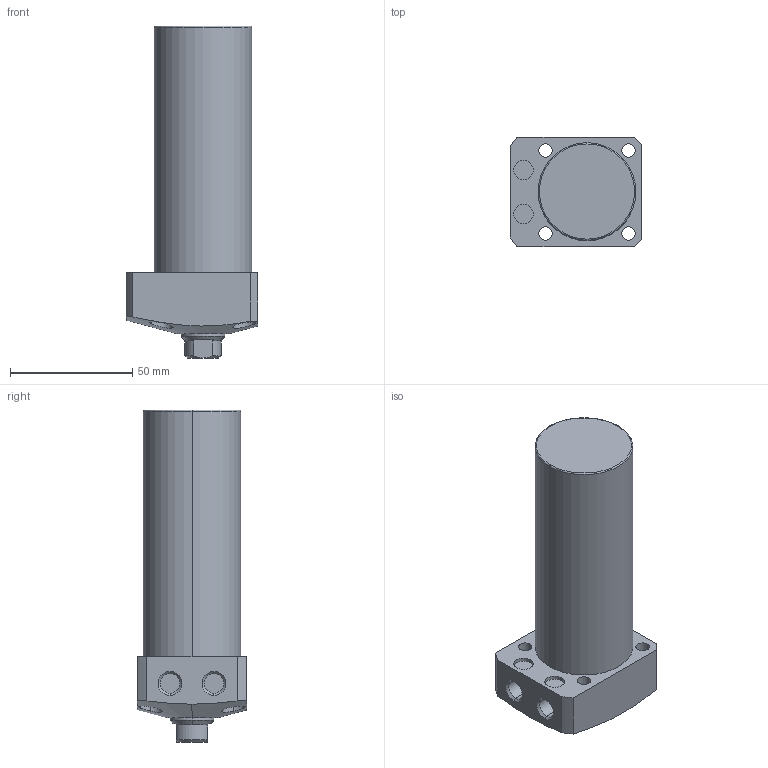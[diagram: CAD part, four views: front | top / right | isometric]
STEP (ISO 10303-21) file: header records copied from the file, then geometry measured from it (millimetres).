
FILE_DESCRIPTION (( 'STEP AP203' ), '1' );
FILE_NAME ('CLL-040CA-075.STEP', '2019-12-21T03:38:40', ( '' ), ( '' ), 'SwSTEP 2.0', 'SolidWorks 2015', '' );
FILE_SCHEMA (( 'CONFIG_CONTROL_DESIGN' ));
Length unit declared in the file: millimetre
Products named in the file (1): CLL-040CA-075
Bounding box: 54 x 45 x 136 mm (x, y, z)
Volume: 177358.7 mm3; surface area: 24794.3 mm2
Topology: 1 solids, 1 shells, 74 faces, 170 edges, 107 vertices
Faces by surface type: cylinder 35, plane 22, cone 15, torus 2
Entity records: 2505 total; most frequent: CARTESIAN_POINT 718, DIRECTION 374, ORIENTED_EDGE 336, EDGE_CURVE 168, AXIS2_PLACEMENT_3D 155, VERTEX_POINT 107, EDGE_LOOP 93, CIRCLE 80
